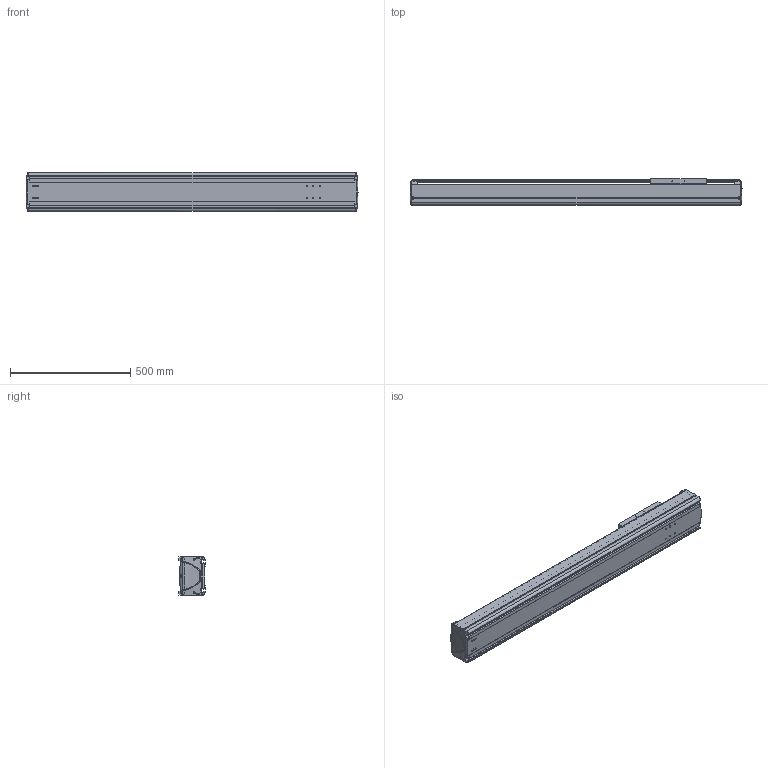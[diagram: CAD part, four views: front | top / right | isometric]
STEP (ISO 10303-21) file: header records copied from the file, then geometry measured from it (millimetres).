
FILE_DESCRIPTION((''),'2;1');
FILE_NAME('BE50G-ST-L_N-95_IGS_PRT','2017-06-18T',(' '),(''),'PRO/ENGINEER BY PARAMETRIC TECHNOLOGY CORPORATION, 2015030','PRO/ENGINEER BY PARAMETRIC TECHNOLOGY CORPORATION, 2015030','');
FILE_SCHEMA(('CONFIG_CONTROL_DESIGN'));
Length unit declared in the file: millimetre
Products named in the file (1): BE50G-ST-L_N-95_IGS_PRT
Bounding box: 1379.98 x 110 x 160 mm (x, y, z)
Volume: 6239673.6 mm3; surface area: 2117879.4 mm2
Topology: 2 solids, 91 shells, 1676 faces, 4473 edges, 2866 vertices
Faces by surface type: cylinder 738, plane 629, bspline 102, torus 87, cone 80, sphere 40
Entity records: 57818 total; most frequent: CARTESIAN_POINT 16599, ORIENTED_EDGE 8508, DIRECTION 8416, EDGE_CURVE 4432, AXIS2_PLACEMENT_3D 3146, VERTEX_POINT 2855, VECTOR 2124, LINE 2124
